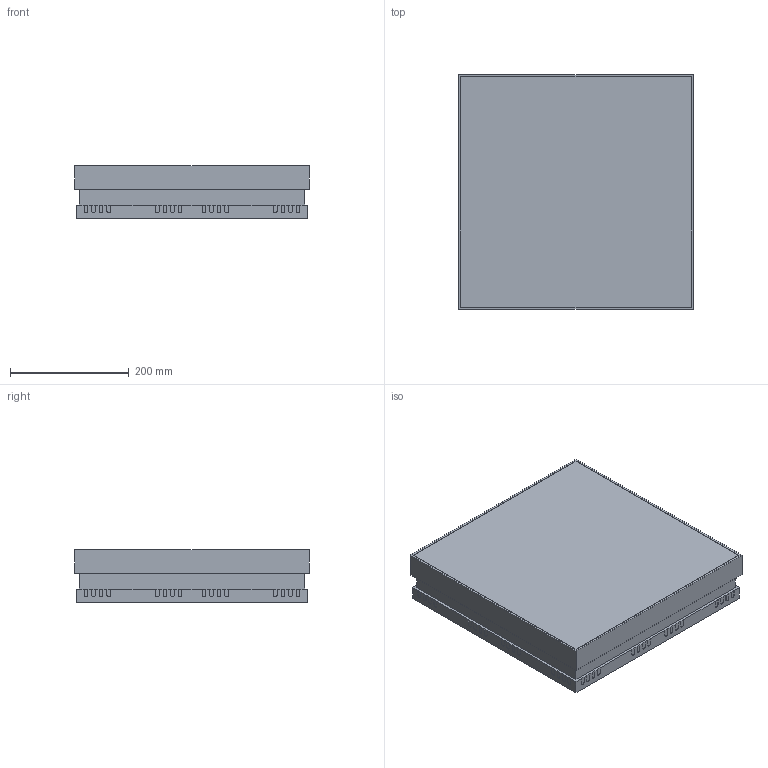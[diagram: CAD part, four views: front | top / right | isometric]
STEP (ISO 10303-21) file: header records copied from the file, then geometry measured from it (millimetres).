
FILE_DESCRIPTION (( 'STEP AP214' ), '1' );
FILE_NAME ('AD 22 Simplified.STEP', '2012-09-11T18:01:47', ( 'landesk' ), ( 'Microsoft' ), 'SwSTEP 2.0', 'SolidWorks 2012', '' );
FILE_SCHEMA (( 'AUTOMOTIVE_DESIGN' ));
Length unit declared in the file: millimetre
Products named in the file (1): AD 22 Simplified
Bounding box: 395.16 x 395.16 x 88.9 mm (x, y, z)
Volume: 13393089.6 mm3; surface area: 466973.2 mm2
Topology: 1 solids, 1 shells, 329 faces, 960 edges, 640 vertices
Faces by surface type: plane 229, cylinder 100
Entity records: 10954 total; most frequent: CARTESIAN_POINT 1930, ORIENTED_EDGE 1920, DIRECTION 1820, EDGE_CURVE 960, LINE 760, VECTOR 760, VERTEX_POINT 640, AXIS2_PLACEMENT_3D 530
